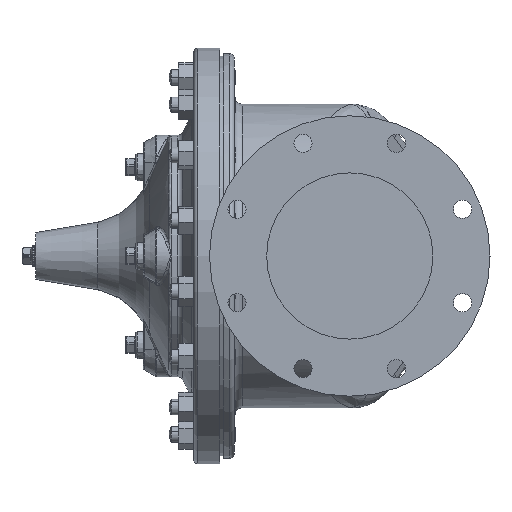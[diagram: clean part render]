
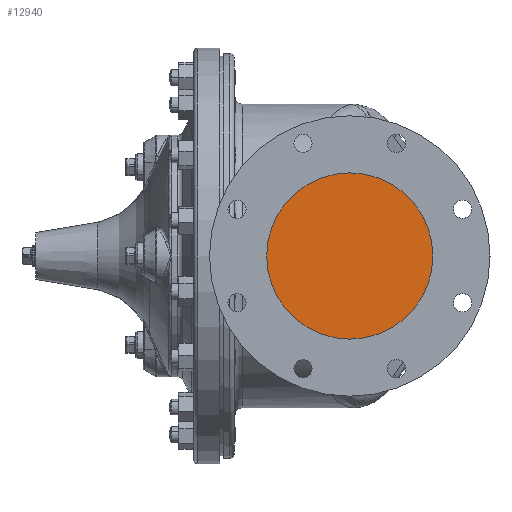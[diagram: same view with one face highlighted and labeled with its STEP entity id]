
A CAD part, left-side view. The second image highlights one B-rep face of the part: STEP entity #12940.
In plain terms, the highlighted planar face has unit normal (-1, 0, 0).
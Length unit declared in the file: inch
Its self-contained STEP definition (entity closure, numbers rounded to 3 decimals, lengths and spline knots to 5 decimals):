
#4603 = AXIS2_PLACEMENT_3D ( 'NONE', #6194, #23214, #8635 ) ;
#5856 = DIRECTION ( 'NONE',  ( 0., 0., 1. ) ) ;
#6136 = VERTEX_POINT ( 'NONE', #23302 ) ;
#6194 = CARTESIAN_POINT ( 'NONE',  ( -9.6875, 0., 0. ) ) ;
#6479 = CARTESIAN_POINT ( 'NONE',  ( -9.6875, 0., 0. ) ) ;
#8195 = PLANE ( 'NONE',  #8607 ) ;
#8341 = ORIENTED_EDGE ( 'NONE', *, *, #16693, .T. ) ;
#8607 = AXIS2_PLACEMENT_3D ( 'NONE', #30117, #20430, #5856 ) ;
#8635 = DIRECTION ( 'NONE',  ( 0., 0., 1. ) ) ;
#8921 = DIRECTION ( 'NONE',  ( 0., 0., 1. ) ) ;
#9378 = CARTESIAN_POINT ( 'NONE',  ( -9.6875, 0., -4. ) ) ;
#12940 = ADVANCED_FACE ( 'NONE', ( #23925 ), #8195, .T. ) ;
#14977 = VERTEX_POINT ( 'NONE', #9378 ) ;
#15281 = CIRCLE ( 'NONE', #16413, 4. ) ;
#16413 = AXIS2_PLACEMENT_3D ( 'NONE', #6479, #23512, #8921 ) ;
#16693 = EDGE_CURVE ( 'NONE', #6136, #14977, #24603, .T. ) ;
#20430 = DIRECTION ( 'NONE',  ( -1., 0., 0. ) ) ;
#23214 = DIRECTION ( 'NONE',  ( -1., 0., 0. ) ) ;
#23302 = CARTESIAN_POINT ( 'NONE',  ( -9.6875, 0., 4. ) ) ;
#23512 = DIRECTION ( 'NONE',  ( -1., 0., 0. ) ) ;
#23925 = FACE_OUTER_BOUND ( 'NONE', #25320, .T. ) ;
#24603 = CIRCLE ( 'NONE', #4603, 4. ) ;
#24665 = ORIENTED_EDGE ( 'NONE', *, *, #27542, .T. ) ;
#25320 = EDGE_LOOP ( 'NONE', ( #8341, #24665 ) ) ;
#27542 = EDGE_CURVE ( 'NONE', #14977, #6136, #15281, .T. ) ;
#30117 = CARTESIAN_POINT ( 'NONE',  ( -9.6875, 0., 0. ) ) ;
